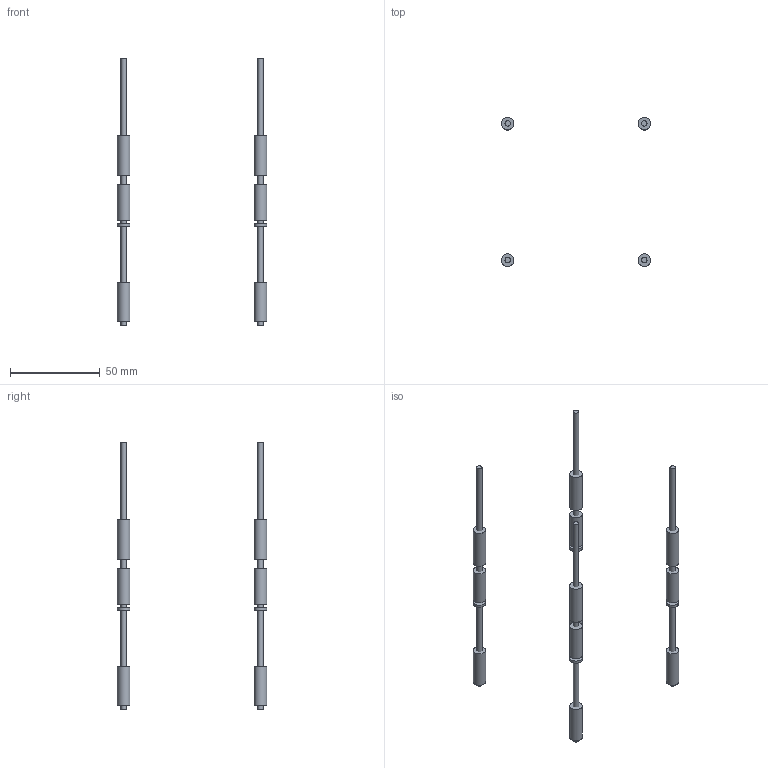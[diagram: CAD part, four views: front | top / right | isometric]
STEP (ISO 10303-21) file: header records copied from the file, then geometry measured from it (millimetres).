
FILE_DESCRIPTION(('Open CASCADE Model'),'2;1');
FILE_NAME('standoffs','2026-08-12T02:42:45',('Author'),('Open CASCADE'), 'Open CASCADE STEP processor 7.9','build123d','Unknown');
FILE_SCHEMA(('AUTOMOTIVE_DESIGN { 1 0 10303 214 1 1 1 1 }'));
Length unit declared in the file: millimetre
Products named in the file (21): standoffs; COMPOUND
Assembly tree (20 placements, depth 2):
  standoffs
    COMPOUND
    COMPOUND
    COMPOUND
    COMPOUND
    COMPOUND
    COMPOUND
    COMPOUND
    COMPOUND
    COMPOUND
    COMPOUND
    COMPOUND
    COMPOUND
    COMPOUND
    COMPOUND
    COMPOUND
    COMPOUND
    COMPOUND
    COMPOUND
    COMPOUND
    COMPOUND
Bounding box: 83 x 83 x 148 mm (x, y, z)
Volume: 14236.8 mm3; surface area: 12611.6 mm2
Topology: 20 solids, 20 shells, 60 faces, 60 edges, 40 vertices
Faces by surface type: plane 40, cylinder 20
Full cylindrical faces by diameter (mm): 3 x4, 7 x16
Entity records: 2216 total; most frequent: DIRECTION 382, CARTESIAN_POINT 301, AXIS2_PLACEMENT_3D 121, ORIENTED_EDGE 120, PCURVE 120, DEFINITIONAL_REPRESENTATION 120, LINE 100, VECTOR 100
